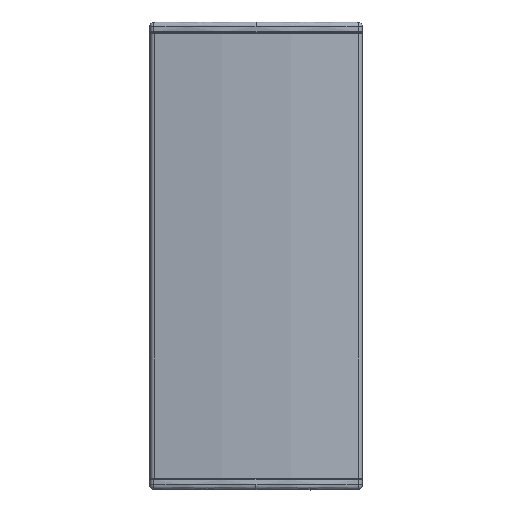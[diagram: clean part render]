
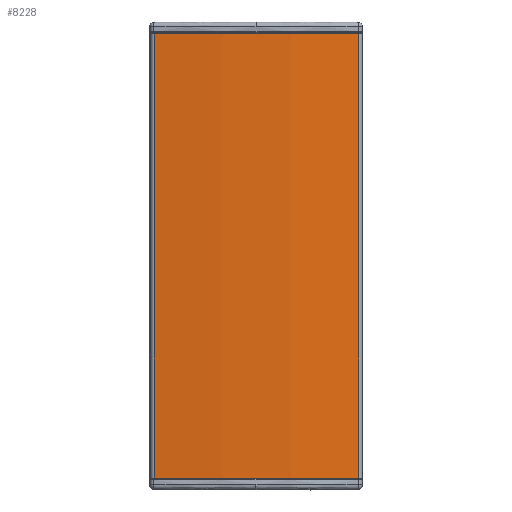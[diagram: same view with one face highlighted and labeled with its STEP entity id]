
A CAD part, top view. The second image highlights one B-rep face of the part: STEP entity #8228.
In plain terms, the highlighted cylindrical face has radius 998 mm (diameter 1996 mm), a partial arc.
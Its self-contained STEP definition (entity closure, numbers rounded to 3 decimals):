
#2358 = CARTESIAN_POINT ( 'NONE',  ( -144.368, 0., 15.503 ) ) ;
#2424 = CARTESIAN_POINT ( 'NONE',  ( 144.368, 628., 15.503 ) ) ;
#2583 = CARTESIAN_POINT ( 'NONE',  ( 144.368, 0., 15.503 ) ) ;
#2881 = DIRECTION ( 'NONE',  ( 0., 1., 0. ) ) ;
#2905 = CARTESIAN_POINT ( 'NONE',  ( -144.368, 314., 15.503 ) ) ;
#2906 = CARTESIAN_POINT ( 'NONE',  ( -144.368, 628., 15.503 ) ) ;
#2924 = DIRECTION ( 'NONE',  ( 0., 1., 0. ) ) ;
#2925 = DIRECTION ( 'NONE',  ( 1., 0., 0. ) ) ;
#2926 = CARTESIAN_POINT ( 'NONE',  ( 0., 628., -972. ) ) ;
#2928 = CARTESIAN_POINT ( 'NONE',  ( 144.368, 314., 15.503 ) ) ;
#2930 = DIRECTION ( 'NONE',  ( 0., 1., 0. ) ) ;
#2939 = DIRECTION ( 'NONE',  ( 1., 0., 0. ) ) ;
#2940 = DIRECTION ( 'NONE',  ( 0., 1., 0. ) ) ;
#2944 = CARTESIAN_POINT ( 'NONE',  ( 0., 0., -972. ) ) ;
#3787 = AXIS2_PLACEMENT_3D ( 'NONE', #13173, #12941, #12891 ) ;
#3955 = AXIS2_PLACEMENT_3D ( 'NONE', #2926, #2924, #2925 ) ;
#3956 = AXIS2_PLACEMENT_3D ( 'NONE', #2944, #2940, #2939 ) ;
#4571 = FACE_OUTER_BOUND ( 'NONE', #8238, .T. ) ;
#4572 = CYLINDRICAL_SURFACE ( 'NONE', #3787, 998. ) ;
#5501 = LINE ( 'NONE', #2905, #5502 ) ;
#5502 = VECTOR ( 'NONE', #2881, 1000. ) ;
#5504 = LINE ( 'NONE', #2928, #5506 ) ;
#5506 = VECTOR ( 'NONE', #2930, 1000. ) ;
#5507 = CIRCLE ( 'NONE', #3955, 998. ) ;
#5509 = CIRCLE ( 'NONE', #3956, 998. ) ;
#8228 = ADVANCED_FACE ( 'NONE', ( #4571 ), #4572, .T. ) ;
#8238 = EDGE_LOOP ( 'NONE', ( #8290, #8291, #8292, #8293 ) ) ;
#8290 = ORIENTED_EDGE ( 'NONE', *, *, #9328, .T. ) ;
#8291 = ORIENTED_EDGE ( 'NONE', *, *, #9330, .F. ) ;
#8292 = ORIENTED_EDGE ( 'NONE', *, *, #9324, .F. ) ;
#8293 = ORIENTED_EDGE ( 'NONE', *, *, #9332, .T. ) ;
#8791 = VERTEX_POINT ( 'NONE', #2358 ) ;
#8793 = VERTEX_POINT ( 'NONE', #2424 ) ;
#8845 = VERTEX_POINT ( 'NONE', #2583 ) ;
#9324 = EDGE_CURVE ( 'NONE', #8791, #9353, #5501, .T. ) ;
#9328 = EDGE_CURVE ( 'NONE', #8845, #8793, #5504, .T. ) ;
#9330 = EDGE_CURVE ( 'NONE', #9353, #8793, #5507, .T. ) ;
#9332 = EDGE_CURVE ( 'NONE', #8791, #8845, #5509, .T. ) ;
#9353 = VERTEX_POINT ( 'NONE', #2906 ) ;
#12891 = DIRECTION ( 'NONE',  ( 1., 0., 0. ) ) ;
#12941 = DIRECTION ( 'NONE',  ( 0., -1., 0. ) ) ;
#13173 = CARTESIAN_POINT ( 'NONE',  ( 0., 628., -972. ) ) ;
